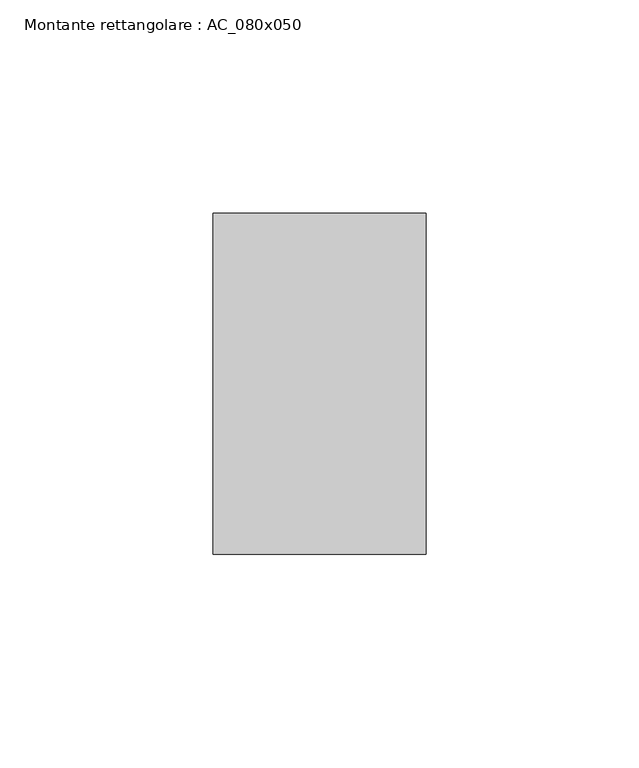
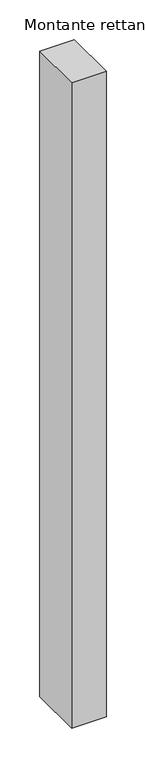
"""IFC4 building model written with IfcOpenShell, lengths in millimetres: member geometry, Montante rettangolare : AC_080x050."""

from ifc_helpers import new_model, si_unit, frame, origin, place, context, project, spatial, polyline, outline, extrude, source, transform, mapped, element, save


def montante_rettangolare_ac_080x050_9c7f8e0c(model_context):
    return source(origin(), model_context, "Body", "SweptSolid", [
        extrude(outline(polyline([(0.0, 40.0), (0.0, -40.0), (-50.0, -40.0), (-50.0, 40.0), (0.0, 40.0)])), frame((0.0, 0.0, -990.2030045), z_axis=(0.0, 0.0, 1.0), x_axis=(1.0, 0.0, 0.0)), (0.0, 0.0, 1.0), 990.2030045),
    ])


if __name__ == "__main__":
    model = new_model("IFC4")
    model_context = context("Model", 3, world=origin())
    ifc_project = project(units=[si_unit("LENGTHUNIT", "METRE", prefix="MILLI")], contexts=[model_context])
    site = spatial("IfcSite", under=ifc_project)
    building = spatial("IfcBuilding", under=site)
    placement = place(None, origin())
    montante_rettangolare_ac_080x050_shape = montante_rettangolare_ac_080x050_9c7f8e0c(model_context)
    element("IfcMember", 1, ObjectType="Montante rettangolare : AC_080x050", at=placement, inside=building, context=model_context, shape_type="MappedRepresentation", body=[
        mapped(montante_rettangolare_ac_080x050_shape, transform((0.0, 0.0, 0.0), x_axis=(1.0, 0.0, 0.0), y_axis=(0.0, 1.0, 0.0), z_axis=(0.0, 0.0, 1.0))),
    ])
    save(model, "model.ifc")
